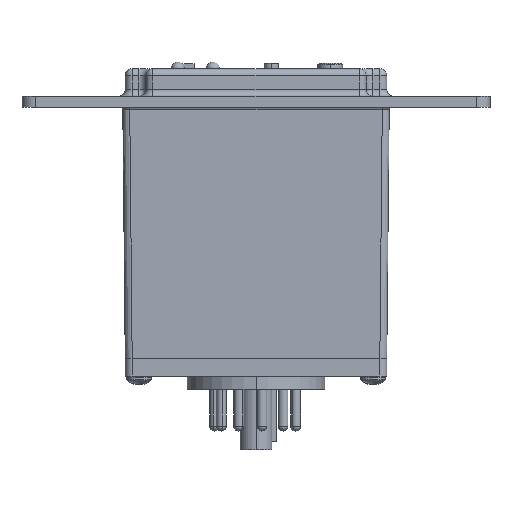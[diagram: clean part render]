
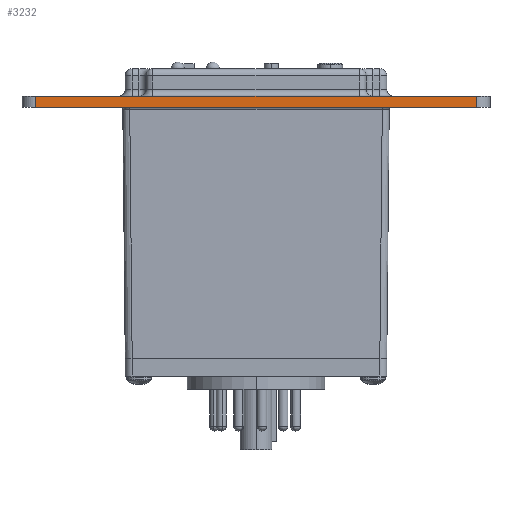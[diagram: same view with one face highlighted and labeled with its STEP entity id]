
A CAD part, left-side view. The second image highlights one B-rep face of the part: STEP entity #3232.
In plain terms, the highlighted planar face has unit normal (-1, 0, 0).
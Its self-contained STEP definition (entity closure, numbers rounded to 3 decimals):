
#1236 = PLANE('',#1237);
#1237 = AXIS2_PLACEMENT_3D('',#1238,#1239,#1240);
#1238 = CARTESIAN_POINT('',(-23.813,-50.8,67.31));
#1239 = DIRECTION('',(0.,0.,1.));
#1240 = DIRECTION('',(1.,0.,0.));
#1286 = PLANE('',#1287);
#1287 = AXIS2_PLACEMENT_3D('',#1288,#1289,#1290);
#1288 = CARTESIAN_POINT('',(-23.813,-50.8,64.77));
#1289 = DIRECTION('',(0.,0.,1.));
#1290 = DIRECTION('',(1.,0.,0.));
#1865 = VERTEX_POINT('',#1866);
#1866 = CARTESIAN_POINT('',(-26.988,-50.8,64.77));
#1883 = CYLINDRICAL_SURFACE('',#1884,3.175);
#1884 = AXIS2_PLACEMENT_3D('',#1885,#1886,#1887);
#1885 = CARTESIAN_POINT('',(-23.813,-50.8,64.77));
#1886 = DIRECTION('',(0.,0.,1.));
#1887 = DIRECTION('',(1.,0.,0.));
#1895 = EDGE_CURVE('',#1896,#1865,#1898,.T.);
#1896 = VERTEX_POINT('',#1897);
#1897 = CARTESIAN_POINT('',(-26.988,50.8,64.77));
#1898 = SURFACE_CURVE('',#1899,(#1903,#1910),.PCURVE_S1.);
#1899 = LINE('',#1900,#1901);
#1900 = CARTESIAN_POINT('',(-26.988,50.8,64.77));
#1901 = VECTOR('',#1902,1.);
#1902 = DIRECTION('',(0.,-1.,0.));
#1903 = PCURVE('',#1286,#1904);
#1904 = DEFINITIONAL_REPRESENTATION('',(#1905),#1909);
#1905 = LINE('',#1906,#1907);
#1906 = CARTESIAN_POINT('',(-3.175,101.6));
#1907 = VECTOR('',#1908,1.);
#1908 = DIRECTION('',(0.,-1.));
#1909 = ( GEOMETRIC_REPRESENTATION_CONTEXT(2) 
PARAMETRIC_REPRESENTATION_CONTEXT() REPRESENTATION_CONTEXT('2D SPACE',''
  ) );
#1910 = PCURVE('',#1911,#1916);
#1911 = PLANE('',#1912);
#1912 = AXIS2_PLACEMENT_3D('',#1913,#1914,#1915);
#1913 = CARTESIAN_POINT('',(-26.988,50.8,64.77));
#1914 = DIRECTION('',(-1.,0.,0.));
#1915 = DIRECTION('',(0.,-1.,0.));
#1916 = DEFINITIONAL_REPRESENTATION('',(#1917),#1921);
#1917 = LINE('',#1918,#1919);
#1918 = CARTESIAN_POINT('',(0.,0.));
#1919 = VECTOR('',#1920,1.);
#1920 = DIRECTION('',(1.,0.));
#1921 = ( GEOMETRIC_REPRESENTATION_CONTEXT(2) 
PARAMETRIC_REPRESENTATION_CONTEXT() REPRESENTATION_CONTEXT('2D SPACE',''
  ) );
#1940 = CYLINDRICAL_SURFACE('',#1941,3.175);
#1941 = AXIS2_PLACEMENT_3D('',#1942,#1943,#1944);
#1942 = CARTESIAN_POINT('',(-23.813,50.8,64.77));
#1943 = DIRECTION('',(0.,0.,1.));
#1944 = DIRECTION('',(1.,0.,0.));
#2999 = VERTEX_POINT('',#3000);
#3000 = CARTESIAN_POINT('',(-26.988,-50.8,67.31));
#3142 = VERTEX_POINT('',#3143);
#3143 = CARTESIAN_POINT('',(-26.988,50.8,67.31));
#3165 = EDGE_CURVE('',#3142,#2999,#3166,.T.);
#3166 = SURFACE_CURVE('',#3167,(#3171,#3178),.PCURVE_S1.);
#3167 = LINE('',#3168,#3169);
#3168 = CARTESIAN_POINT('',(-26.988,50.8,67.31));
#3169 = VECTOR('',#3170,1.);
#3170 = DIRECTION('',(0.,-1.,0.));
#3171 = PCURVE('',#1236,#3172);
#3172 = DEFINITIONAL_REPRESENTATION('',(#3173),#3177);
#3173 = LINE('',#3174,#3175);
#3174 = CARTESIAN_POINT('',(-3.175,101.6));
#3175 = VECTOR('',#3176,1.);
#3176 = DIRECTION('',(0.,-1.));
#3177 = ( GEOMETRIC_REPRESENTATION_CONTEXT(2) 
PARAMETRIC_REPRESENTATION_CONTEXT() REPRESENTATION_CONTEXT('2D SPACE',''
  ) );
#3178 = PCURVE('',#1911,#3179);
#3179 = DEFINITIONAL_REPRESENTATION('',(#3180),#3184);
#3180 = LINE('',#3181,#3182);
#3181 = CARTESIAN_POINT('',(0.,2.54));
#3182 = VECTOR('',#3183,1.);
#3183 = DIRECTION('',(1.,0.));
#3184 = ( GEOMETRIC_REPRESENTATION_CONTEXT(2) 
PARAMETRIC_REPRESENTATION_CONTEXT() REPRESENTATION_CONTEXT('2D SPACE',''
  ) );
#3190 = EDGE_CURVE('',#1865,#2999,#3191,.T.);
#3191 = SURFACE_CURVE('',#3192,(#3196,#3203),.PCURVE_S1.);
#3192 = LINE('',#3193,#3194);
#3193 = CARTESIAN_POINT('',(-26.988,-50.8,64.77));
#3194 = VECTOR('',#3195,1.);
#3195 = DIRECTION('',(0.,0.,1.));
#3196 = PCURVE('',#1883,#3197);
#3197 = DEFINITIONAL_REPRESENTATION('',(#3198),#3202);
#3198 = LINE('',#3199,#3200);
#3199 = CARTESIAN_POINT('',(3.142,0.));
#3200 = VECTOR('',#3201,1.);
#3201 = DIRECTION('',(0.,1.));
#3202 = ( GEOMETRIC_REPRESENTATION_CONTEXT(2) 
PARAMETRIC_REPRESENTATION_CONTEXT() REPRESENTATION_CONTEXT('2D SPACE',''
  ) );
#3203 = PCURVE('',#1911,#3204);
#3204 = DEFINITIONAL_REPRESENTATION('',(#3205),#3209);
#3205 = LINE('',#3206,#3207);
#3206 = CARTESIAN_POINT('',(101.6,0.));
#3207 = VECTOR('',#3208,1.);
#3208 = DIRECTION('',(0.,1.));
#3209 = ( GEOMETRIC_REPRESENTATION_CONTEXT(2) 
PARAMETRIC_REPRESENTATION_CONTEXT() REPRESENTATION_CONTEXT('2D SPACE',''
  ) );
#3232 = ADVANCED_FACE('',(#3233),#1911,.T.);
#3233 = FACE_BOUND('',#3234,.T.);
#3234 = EDGE_LOOP('',(#3235,#3236,#3257,#3258));
#3235 = ORIENTED_EDGE('',*,*,#3165,.F.);
#3236 = ORIENTED_EDGE('',*,*,#3237,.F.);
#3237 = EDGE_CURVE('',#1896,#3142,#3238,.T.);
#3238 = SURFACE_CURVE('',#3239,(#3243,#3250),.PCURVE_S1.);
#3239 = LINE('',#3240,#3241);
#3240 = CARTESIAN_POINT('',(-26.988,50.8,64.77));
#3241 = VECTOR('',#3242,1.);
#3242 = DIRECTION('',(0.,0.,1.));
#3243 = PCURVE('',#1911,#3244);
#3244 = DEFINITIONAL_REPRESENTATION('',(#3245),#3249);
#3245 = LINE('',#3246,#3247);
#3246 = CARTESIAN_POINT('',(0.,0.));
#3247 = VECTOR('',#3248,1.);
#3248 = DIRECTION('',(0.,1.));
#3249 = ( GEOMETRIC_REPRESENTATION_CONTEXT(2) 
PARAMETRIC_REPRESENTATION_CONTEXT() REPRESENTATION_CONTEXT('2D SPACE',''
  ) );
#3250 = PCURVE('',#1940,#3251);
#3251 = DEFINITIONAL_REPRESENTATION('',(#3252),#3256);
#3252 = LINE('',#3253,#3254);
#3253 = CARTESIAN_POINT('',(3.142,0.));
#3254 = VECTOR('',#3255,1.);
#3255 = DIRECTION('',(0.,1.));
#3256 = ( GEOMETRIC_REPRESENTATION_CONTEXT(2) 
PARAMETRIC_REPRESENTATION_CONTEXT() REPRESENTATION_CONTEXT('2D SPACE',''
  ) );
#3257 = ORIENTED_EDGE('',*,*,#1895,.T.);
#3258 = ORIENTED_EDGE('',*,*,#3190,.T.);
